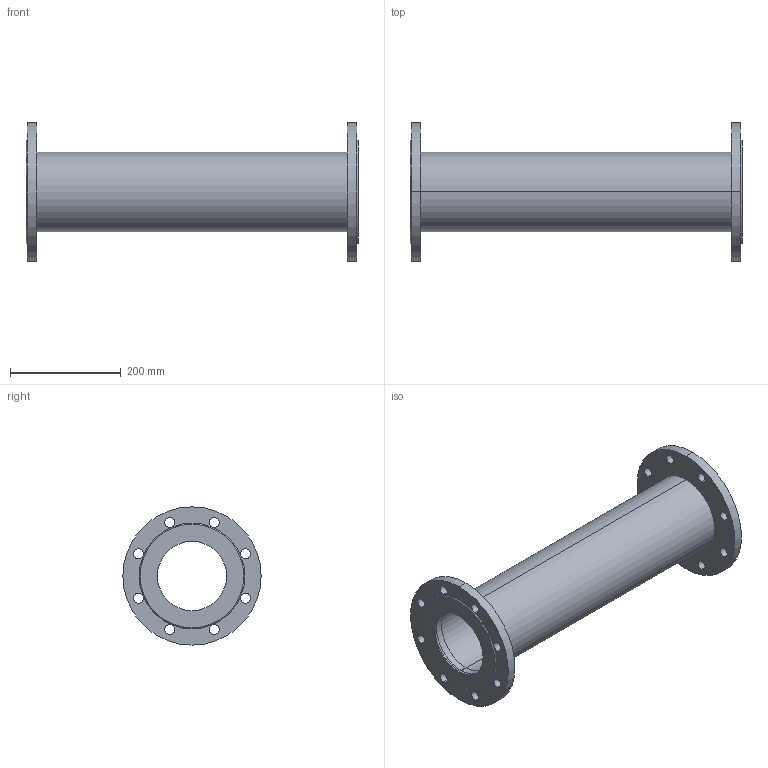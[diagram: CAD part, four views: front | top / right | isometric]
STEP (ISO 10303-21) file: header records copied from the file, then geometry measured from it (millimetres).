
FILE_DESCRIPTION(('STEP AP214'),'1');
FILE_NAME('U:/VDI-Daten/8500/8500_PN16_DN125_L600.STP','2012-06-12T15:10:43',(' '),(' '),'Spatial InterOp 3D',' ',' ');
FILE_SCHEMA(('automotive_design'));
Length unit declared in the file: millimetre
Products named in the file (5): 3D-Objekt
Bounding box: 600 x 250 x 250 mm (x, y, z)
Volume: 3603975.3 mm3; surface area: 767149.1 mm2
Topology: 5 solids, 5 shells, 62 faces, 156 edges, 104 vertices
Faces by surface type: cylinder 48, plane 10, cone 4
Entity records: 2621 total; most frequent: DIRECTION 394, CARTESIAN_POINT 327, ORIENTED_EDGE 312, AXIS2_PLACEMENT_3D 171, EDGE_CURVE 156, EDGE_LOOP 104, VERTEX_POINT 104, CIRCLE 104
